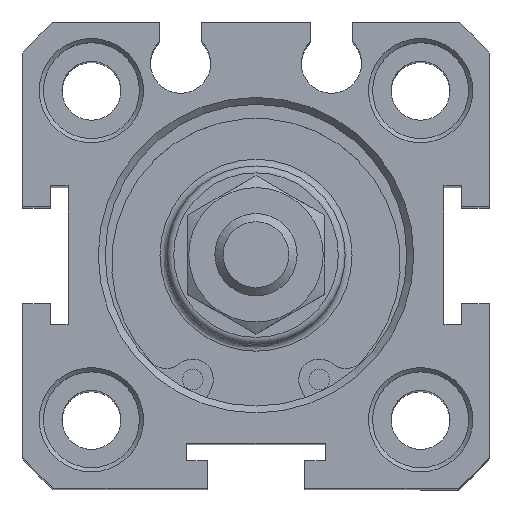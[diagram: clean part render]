
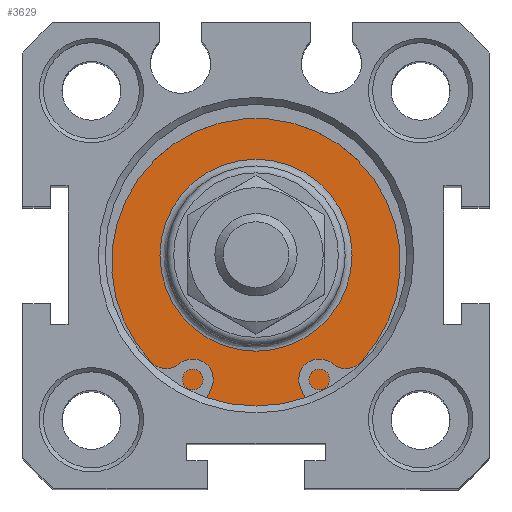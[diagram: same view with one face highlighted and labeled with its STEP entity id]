
A CAD part, top view. The second image highlights one B-rep face of the part: STEP entity #3629.
In plain terms, the highlighted planar face has unit normal (0, 0, 1).
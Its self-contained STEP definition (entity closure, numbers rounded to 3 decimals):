
#3567=CARTESIAN_POINT('',(0.957,6.522,66.8));
#3568=VERTEX_POINT('',#3567);
#3569=CARTESIAN_POINT('',(0.957,-0.478,66.8));
#3570=DIRECTION('',(0.0,0.0,1.0));
#3571=DIRECTION('',(0.0,-1.0,0.0));
#3572=AXIS2_PLACEMENT_3D('',#3569,#3570,#3571);
#3573=CIRCLE('',#3572,7.);
#3574=EDGE_CURVE('',#3568,#3568,#3573,.T.);
#3610=CARTESIAN_POINT('',(0.957,8.272,66.8));
#3611=DIRECTION('',(0.0,0.0,1.0));
#3612=DIRECTION('',(1.0,0.0,0.0));
#3613=AXIS2_PLACEMENT_3D('',#3610,#3611,#3612);
#3614=PLANE('',#3613);
#3615=CARTESIAN_POINT('',(0.957,10.522,66.8));
#3616=VERTEX_POINT('',#3615);
#3617=CARTESIAN_POINT('',(0.957,-0.478,66.8));
#3618=DIRECTION('',(0.0,0.0,1.0));
#3619=DIRECTION('',(0.0,1.0,0.0));
#3620=AXIS2_PLACEMENT_3D('',#3617,#3618,#3619);
#3621=CIRCLE('',#3620,11.);
#3622=EDGE_CURVE('',#3616,#3616,#3621,.T.);
#3623=ORIENTED_EDGE('',*,*,#3622,.T.);
#3624=EDGE_LOOP('',(#3623));
#3625=FACE_OUTER_BOUND('',#3624,.T.);
#3626=ORIENTED_EDGE('',*,*,#3574,.F.);
#3627=EDGE_LOOP('',(#3626));
#3628=FACE_BOUND('',#3627,.T.);
#3629=ADVANCED_FACE('',(#3625,#3628),#3614,.T.);
